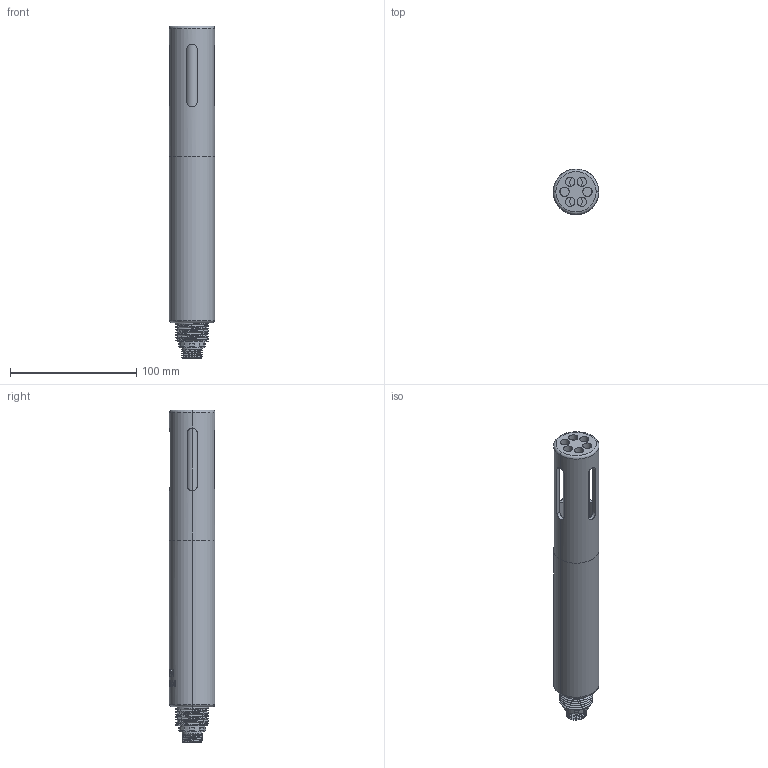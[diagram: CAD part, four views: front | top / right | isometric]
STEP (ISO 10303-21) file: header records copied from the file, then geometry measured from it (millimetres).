
FILE_DESCRIPTION((''),'2;1');
FILE_NAME('ASM0004_ASM','2025-12-25T15:21:02',('28740194'),(''),'CREO PARAMETRIC BY PTC INC, 2024063','CREO PARAMETRIC BY PTC INC, 2024063','');
FILE_SCHEMA(('CONFIG_CONTROL_DESIGN'));
Length unit declared in the file: millimetre
Products named in the file (4): KWS-201-1; KWS-201-2; 20001; ASM0004_ASM
Assembly tree (3 placements, depth 2):
  ASM0004_ASM
    KWS-201-1
    KWS-201-2
    20001
Bounding box: 36 x 36.29 x 263 mm (x, y, z)
Volume: 38913.7 mm3; surface area: 53375.6 mm2
Topology: 2 solids, 5 shells, 491 faces, 1364 edges, 910 vertices
Faces by surface type: bspline 315, cylinder 101, plane 71, torus 4
Entity records: 26065 total; most frequent: CARTESIAN_POINT 15739, ORIENTED_EDGE 2704, EDGE_CURVE 1364, DIRECTION 1118, VERTEX_POINT 910, B_SPLINE_CURVE_WITH_KNOTS 845, EDGE_LOOP 541, FACE_OUTER_BOUND 491
